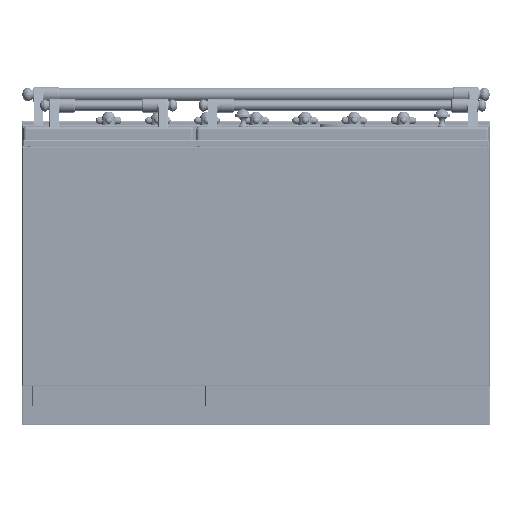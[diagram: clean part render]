
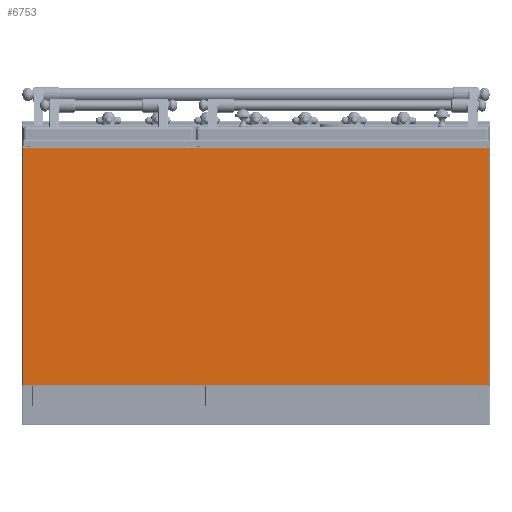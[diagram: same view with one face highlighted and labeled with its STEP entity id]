
A CAD part, front view. The second image highlights one B-rep face of the part: STEP entity #6753.
In plain terms, the highlighted planar face has unit normal (0, -1, 0).
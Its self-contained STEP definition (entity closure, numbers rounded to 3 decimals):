
#6368=DIRECTION('',(0.,0.,1.));
#6369=VECTOR('',#6368,508.);
#6370=CARTESIAN_POINT('',(497.,0.,-254.));
#6371=LINE('',#6370,#6369);
#6372=DIRECTION('',(-1.,0.,0.));
#6373=VECTOR('',#6372,994.);
#6374=CARTESIAN_POINT('',(497.,0.,-254.));
#6375=LINE('',#6374,#6373);
#6376=DIRECTION('',(0.,0.,-1.));
#6377=VECTOR('',#6376,508.);
#6378=CARTESIAN_POINT('',(-497.,0.,254.));
#6379=LINE('',#6378,#6377);
#6380=DIRECTION('',(-1.,0.,0.));
#6381=VECTOR('',#6380,994.);
#6382=CARTESIAN_POINT('',(497.,0.,254.));
#6383=LINE('',#6382,#6381);
#6488=CARTESIAN_POINT('',(497.,0.,-254.));
#6489=CARTESIAN_POINT('',(497.,0.,254.));
#6490=VERTEX_POINT('',#6488);
#6491=VERTEX_POINT('',#6489);
#6494=CARTESIAN_POINT('',(-497.,0.,-254.));
#6495=VERTEX_POINT('',#6494);
#6502=CARTESIAN_POINT('',(-497.,0.,254.));
#6503=VERTEX_POINT('',#6502);
#6741=CARTESIAN_POINT('',(-499.,0.,-256.));
#6742=DIRECTION('',(0.,1.,0.));
#6743=DIRECTION('',(0.,0.,1.));
#6744=AXIS2_PLACEMENT_3D('',#6741,#6742,#6743);
#6745=PLANE('',#6744);
#6747=ORIENTED_EDGE('',*,*,#6746,.F.);
#6748=ORIENTED_EDGE('',*,*,#6732,.T.);
#6749=ORIENTED_EDGE('',*,*,#6621,.F.);
#6750=ORIENTED_EDGE('',*,*,#6650,.F.);
#6751=EDGE_LOOP('',(#6747,#6748,#6749,#6750));
#6752=FACE_OUTER_BOUND('',#6751,.F.);
#6621=EDGE_CURVE('',#6503,#6495,#6379,.T.);
#6650=EDGE_CURVE('',#6491,#6503,#6383,.T.);
#6732=EDGE_CURVE('',#6490,#6495,#6375,.T.);
#6746=EDGE_CURVE('',#6490,#6491,#6371,.T.);
#6753=ADVANCED_FACE('',(#6752),#6745,.F.);
